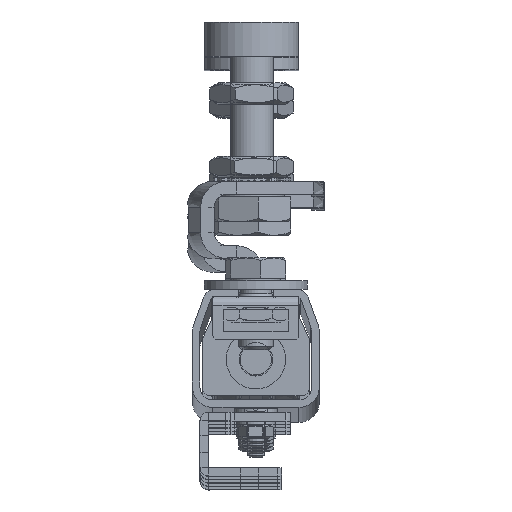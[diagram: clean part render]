
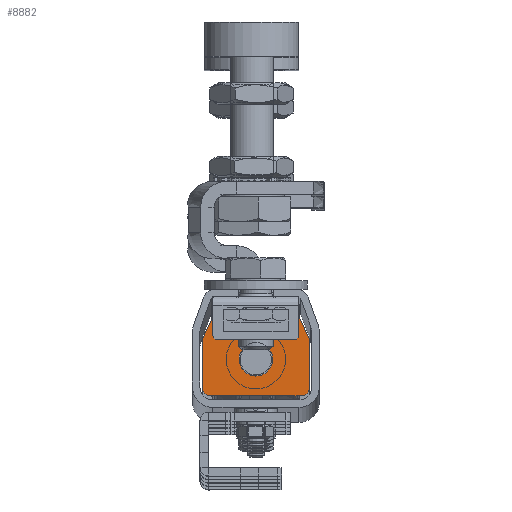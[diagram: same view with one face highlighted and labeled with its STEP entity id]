
A CAD part, top view. The second image highlights one B-rep face of the part: STEP entity #8882.
In plain terms, the highlighted planar face has unit normal (0, 0, 1) as drawn and (1, 0, 0) by its records, which use the part's own axes.
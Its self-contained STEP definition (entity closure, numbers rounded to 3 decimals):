
#427=FACE_BOUND('',#1531,.T.);
#530=PLANE('',#9897);
#1006=FACE_OUTER_BOUND('',#1530,.T.);
#1530=EDGE_LOOP('',(#6512,#6513,#6514,#6515,#6516,#6517,#6518,#6519,#6520,
#6521));
#1531=EDGE_LOOP('',(#6522));
#2112=LINE('',#13987,#2846);
#2136=LINE('',#14058,#2870);
#2141=LINE('',#14072,#2875);
#2145=LINE('',#14084,#2879);
#2148=LINE('',#14090,#2882);
#2151=LINE('',#14096,#2885);
#2155=LINE('',#14107,#2889);
#2158=LINE('',#14112,#2892);
#2846=VECTOR('',#11105,10.);
#2870=VECTOR('',#11183,10.);
#2875=VECTOR('',#11196,10.);
#2879=VECTOR('',#11208,10.);
#2882=VECTOR('',#11213,10.);
#2885=VECTOR('',#11218,10.);
#2889=VECTOR('',#11230,10.);
#2892=VECTOR('',#11237,10.);
#3549=CIRCLE('',#9882,2.);
#3551=CIRCLE('',#9886,2.);
#3554=CIRCLE('',#9893,3.65);
#4061=VERTEX_POINT('',#13968);
#4066=VERTEX_POINT('',#13979);
#4085=VERTEX_POINT('',#14056);
#4086=VERTEX_POINT('',#14057);
#4089=VERTEX_POINT('',#14065);
#4091=VERTEX_POINT('',#14071);
#4093=VERTEX_POINT('',#14077);
#4095=VERTEX_POINT('',#14083);
#4097=VERTEX_POINT('',#14089);
#4099=VERTEX_POINT('',#14095);
#4102=VERTEX_POINT('',#14103);
#4961=EDGE_CURVE('',#4066,#4061,#2112,.T.);
#4995=EDGE_CURVE('',#4085,#4086,#2136,.T.);
#4999=EDGE_CURVE('',#4089,#4085,#3549,.T.);
#5002=EDGE_CURVE('',#4091,#4089,#2141,.T.);
#5005=EDGE_CURVE('',#4093,#4091,#3551,.T.);
#5008=EDGE_CURVE('',#4095,#4093,#2145,.T.);
#5011=EDGE_CURVE('',#4097,#4095,#2148,.T.);
#5014=EDGE_CURVE('',#4086,#4099,#2151,.T.);
#5019=EDGE_CURVE('',#4102,#4102,#3554,.T.);
#5020=EDGE_CURVE('',#4066,#4097,#2155,.T.);
#5023=EDGE_CURVE('',#4099,#4061,#2158,.T.);
#6512=ORIENTED_EDGE('',*,*,#4961,.T.);
#6513=ORIENTED_EDGE('',*,*,#5023,.F.);
#6514=ORIENTED_EDGE('',*,*,#5014,.F.);
#6515=ORIENTED_EDGE('',*,*,#4995,.F.);
#6516=ORIENTED_EDGE('',*,*,#4999,.F.);
#6517=ORIENTED_EDGE('',*,*,#5002,.F.);
#6518=ORIENTED_EDGE('',*,*,#5005,.F.);
#6519=ORIENTED_EDGE('',*,*,#5008,.F.);
#6520=ORIENTED_EDGE('',*,*,#5011,.F.);
#6521=ORIENTED_EDGE('',*,*,#5020,.F.);
#6522=ORIENTED_EDGE('',*,*,#5019,.T.);
#8882=ADVANCED_FACE('',(#1006,#427),#530,.T.);
#9882=AXIS2_PLACEMENT_3D('',#14066,#11189,#11190);
#9886=AXIS2_PLACEMENT_3D('',#14078,#11201,#11202);
#9893=AXIS2_PLACEMENT_3D('',#14105,#11226,#11227);
#9897=AXIS2_PLACEMENT_3D('',#14113,#11238,#11239);
#11105=DIRECTION('',(0.,1.,0.));
#11183=DIRECTION('',(0.,0.,-1.));
#11189=DIRECTION('center_axis',(-1.,0.,0.));
#11190=DIRECTION('ref_axis',(0.,1.,0.));
#11196=DIRECTION('',(0.,1.,0.));
#11201=DIRECTION('center_axis',(-1.,0.,0.));
#11202=DIRECTION('ref_axis',(0.,0.,
1.));
#11208=DIRECTION('',(0.,0.,1.));
#11213=DIRECTION('',(0.,-0.414,0.91));
#11218=DIRECTION('',(0.,-0.414,-0.91));
#11226=DIRECTION('center_axis',(-1.,0.,0.));
#11227=DIRECTION('ref_axis',(0.,0.,
1.));
#11230=DIRECTION('',(0.,0.,1.));
#11237=DIRECTION('',(0.,0.,-1.));
#11238=DIRECTION('center_axis',(1.,0.,0.));
#11239=DIRECTION('ref_axis',(0.,0.,
-1.));
#13968=CARTESIAN_POINT('',(13.103,10.,2.01));
#13979=CARTESIAN_POINT('',(13.103,-10.,2.01));
#13987=CARTESIAN_POINT('',(13.103,5.,2.01));
#14056=CARTESIAN_POINT('',(13.103,12.5,20.997));
#14057=CARTESIAN_POINT('',(13.103,12.5,9.997));
#14058=CARTESIAN_POINT('',(13.103,12.5,9.997));
#14065=CARTESIAN_POINT('',(13.103,10.5,22.997));
#14066=CARTESIAN_POINT('Origin',(13.103,10.5,20.997));
#14071=CARTESIAN_POINT('',(13.103,-10.5,22.997));
#14072=CARTESIAN_POINT('',(13.103,10.5,22.997));
#14077=CARTESIAN_POINT('',(13.103,-12.5,20.997));
#14078=CARTESIAN_POINT('Origin',(13.103,-10.5,20.997));
#14083=CARTESIAN_POINT('',(13.103,-12.5,9.997));
#14084=CARTESIAN_POINT('',(13.103,-12.5,20.997));
#14089=CARTESIAN_POINT('',(13.103,-10.,4.497));
#14090=CARTESIAN_POINT('',(13.103,-12.5,9.997));
#14095=CARTESIAN_POINT('',(13.103,10.,4.497));
#14096=CARTESIAN_POINT('',(13.103,10.,4.497));
#14103=CARTESIAN_POINT('',(13.103,0.,10.847));
#14105=CARTESIAN_POINT('Origin',(13.103,0.,
14.497));
#14107=CARTESIAN_POINT('',(13.103,-10.,4.497));
#14112=CARTESIAN_POINT('',(13.103,10.,-20.103));
#14113=CARTESIAN_POINT('Origin',(13.103,0.,
1.688));
